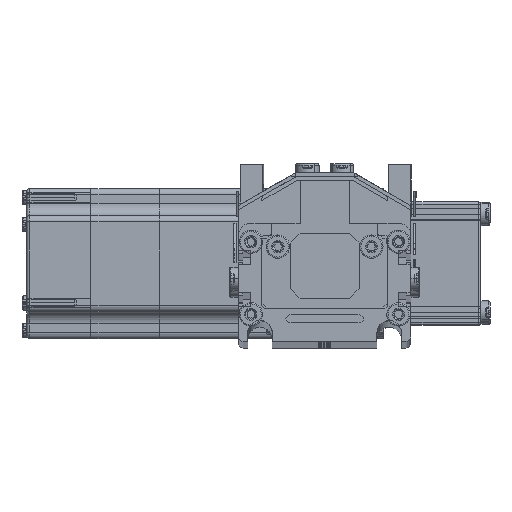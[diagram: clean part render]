
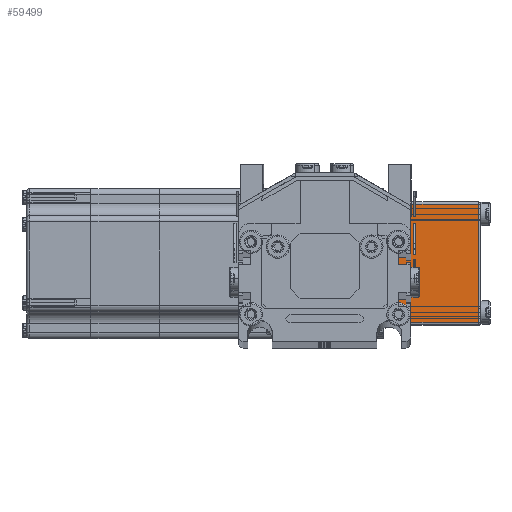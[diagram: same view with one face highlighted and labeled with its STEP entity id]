
A CAD part, top view. The second image highlights one B-rep face of the part: STEP entity #59499.
In plain terms, the highlighted planar face has unit normal (0, 0, 1) as drawn and (-1, 0, 0) by its records, which use the part's own axes.
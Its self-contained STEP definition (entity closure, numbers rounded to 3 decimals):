
#1690 = ORIENTED_EDGE ( 'NONE', *, *, #59517, .T. ) ;
#53552 = CARTESIAN_POINT ( 'NONE',  ( -50., -24., 38.5 ) ) ;
#54035 = CARTESIAN_POINT ( 'NONE',  ( -50., 25., 0. ) ) ;
#54040 = VECTOR ( 'NONE', #54075, 1000. ) ;
#54045 = LINE ( 'NONE', #54035, #54040 ) ;
#54075 = DIRECTION ( 'NONE',  ( 0., -1., 0. ) ) ;
#54076 = CARTESIAN_POINT ( 'NONE',  ( -50., -24., 0. ) ) ;
#54077 = CARTESIAN_POINT ( 'NONE',  ( -50., 24., 0. ) ) ;
#54096 = DIRECTION ( 'NONE',  ( 0., 1., 0. ) ) ;
#54097 = DIRECTION ( 'NONE',  ( 1., 0., 0. ) ) ;
#54101 = CARTESIAN_POINT ( 'NONE',  ( -50., 25., 39.5 ) ) ;
#54103 = AXIS2_PLACEMENT_3D ( 'NONE', #54101, #54097, #54096 ) ;
#54104 = DIRECTION ( 'NONE',  ( 0., 0., 1. ) ) ;
#54105 = VECTOR ( 'NONE', #54104, 1000. ) ;
#54106 = CARTESIAN_POINT ( 'NONE',  ( -50., -24., 39.5 ) ) ;
#54107 = LINE ( 'NONE', #54106, #54105 ) ;
#54108 = PLANE ( 'NONE',  #54103 ) ;
#54110 = FACE_OUTER_BOUND ( 'NONE', #59846, .T. ) ;
#54120 = DIRECTION ( 'NONE',  ( 0., 1., 0. ) ) ;
#54124 = VECTOR ( 'NONE', #54120, 1000. ) ;
#54125 = CARTESIAN_POINT ( 'NONE',  ( -50., 25., 38.5 ) ) ;
#54126 = LINE ( 'NONE', #54125, #54124 ) ;
#54624 = CARTESIAN_POINT ( 'NONE',  ( -50., 24., 39.5 ) ) ;
#54625 = LINE ( 'NONE', #54624, #54666 ) ;
#54665 = DIRECTION ( 'NONE',  ( 0., 0., -1. ) ) ;
#54666 = VECTOR ( 'NONE', #54665, 1000. ) ;
#59430 = EDGE_CURVE ( 'NONE', #59434, #59436, #54045, .T. ) ;
#59434 = VERTEX_POINT ( 'NONE', #54077 ) ;
#59436 = VERTEX_POINT ( 'NONE', #54076 ) ;
#59493 = VERTEX_POINT ( 'NONE', #53552 ) ;
#59495 = EDGE_CURVE ( 'NONE', #59436, #59493, #54107, .T. ) ;
#59499 = ADVANCED_FACE ( 'NONE', ( #54110 ), #54108, .F. ) ;
#59508 = ORIENTED_EDGE ( 'NONE', *, *, #59871, .T. ) ;
#59514 = ORIENTED_EDGE ( 'NONE', *, *, #59495, .T. ) ;
#59517 = EDGE_CURVE ( 'NONE', #59493, #165282, #54126, .T. ) ;
#59707 = ORIENTED_EDGE ( 'NONE', *, *, #59430, .T. ) ;
#59846 = EDGE_LOOP ( 'NONE', ( #59707, #59514, #1690, #59508 ) ) ;
#59871 = EDGE_CURVE ( 'NONE', #165282, #59434, #54625, .T. ) ;
#67732 = CARTESIAN_POINT ( 'NONE',  ( -50., 24., 38.5 ) ) ;
#165282 = VERTEX_POINT ( 'NONE', #67732 ) ;
